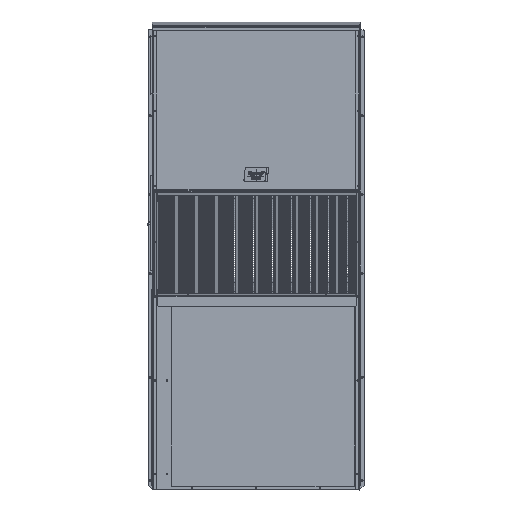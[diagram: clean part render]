
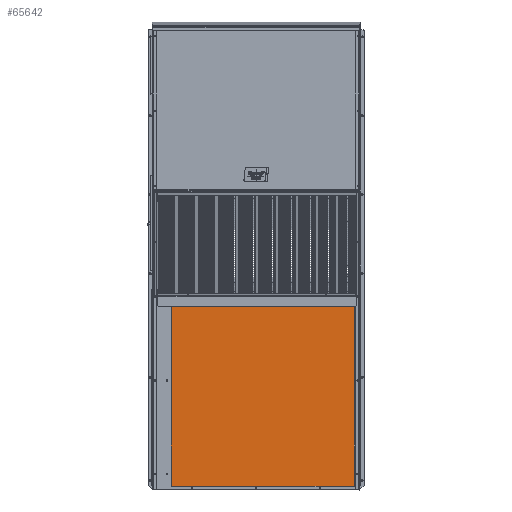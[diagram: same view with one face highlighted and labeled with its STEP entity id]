
A CAD part, top view. The second image highlights one B-rep face of the part: STEP entity #65642.
In plain terms, the highlighted planar face has unit normal (0, 0, 1).
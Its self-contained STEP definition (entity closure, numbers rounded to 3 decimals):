
#1154 = DIRECTION ( 'NONE',  ( 0., -1., 0. ) ) ;
#2584 = CARTESIAN_POINT ( 'NONE',  ( 3.696, 40.075, 0.109 ) ) ;
#4552 = FACE_OUTER_BOUND ( 'NONE', #114602, .T. ) ;
#6900 = CARTESIAN_POINT ( 'NONE',  ( 3.696, 40.075, 0.109 ) ) ;
#7141 = LINE ( 'NONE', #30731, #40788 ) ;
#12453 = VERTEX_POINT ( 'NONE', #6900 ) ;
#21035 = CARTESIAN_POINT ( 'NONE',  ( 40.769, 40.075, 0.109 ) ) ;
#27993 = CARTESIAN_POINT ( 'NONE',  ( 40.769, -0.068, 0.109 ) ) ;
#30731 = CARTESIAN_POINT ( 'NONE',  ( 3.696, 40.075, 0.109 ) ) ;
#39818 = CARTESIAN_POINT ( 'NONE',  ( 3.696, -0.068, 0.109 ) ) ;
#40788 = VECTOR ( 'NONE', #121526, 39.37 ) ;
#53423 = ORIENTED_EDGE ( 'NONE', *, *, #112420, .T. ) ;
#59727 = VERTEX_POINT ( 'NONE', #99989 ) ;
#60376 = EDGE_CURVE ( 'NONE', #12453, #59727, #156665, .T. ) ;
#64641 = ORIENTED_EDGE ( 'NONE', *, *, #121990, .T. ) ;
#65642 = ADVANCED_FACE ( 'NONE', ( #4552 ), #79279, .F. ) ;
#69711 = VECTOR ( 'NONE', #132434, 39.37 ) ;
#72388 = VERTEX_POINT ( 'NONE', #21035 ) ;
#75287 = ORIENTED_EDGE ( 'NONE', *, *, #131726, .T. ) ;
#77268 = VERTEX_POINT ( 'NONE', #27993 ) ;
#79084 = DIRECTION ( 'NONE',  ( -1., 0., 0. ) ) ;
#79237 = DIRECTION ( 'NONE',  ( 0., 0., -1. ) ) ;
#79279 = PLANE ( 'NONE',  #127983 ) ;
#79563 = CARTESIAN_POINT ( 'NONE',  ( -0.425, 40.631, 0.109 ) ) ;
#91709 = ORIENTED_EDGE ( 'NONE', *, *, #60376, .T. ) ;
#99989 = CARTESIAN_POINT ( 'NONE',  ( 3.696, -0.068, 0.109 ) ) ;
#103397 = LINE ( 'NONE', #136755, #69711 ) ;
#104836 = LINE ( 'NONE', #39818, #142581 ) ;
#112420 = EDGE_CURVE ( 'NONE', #72388, #12453, #7141, .T. ) ;
#114602 = EDGE_LOOP ( 'NONE', ( #75287, #64641, #53423, #91709 ) ) ;
#121526 = DIRECTION ( 'NONE',  ( -1., 0., 0. ) ) ;
#121990 = EDGE_CURVE ( 'NONE', #77268, #72388, #103397, .T. ) ;
#123203 = VECTOR ( 'NONE', #1154, 39.37 ) ;
#127983 = AXIS2_PLACEMENT_3D ( 'NONE', #79563, #79237, #79084 ) ;
#131726 = EDGE_CURVE ( 'NONE', #59727, #77268, #104836, .T. ) ;
#132434 = DIRECTION ( 'NONE',  ( 0., 1., 0. ) ) ;
#136755 = CARTESIAN_POINT ( 'NONE',  ( 40.769, 40.075, 0.109 ) ) ;
#141446 = DIRECTION ( 'NONE',  ( 1., 0., 0. ) ) ;
#142581 = VECTOR ( 'NONE', #141446, 39.37 ) ;
#156665 = LINE ( 'NONE', #2584, #123203 ) ;
